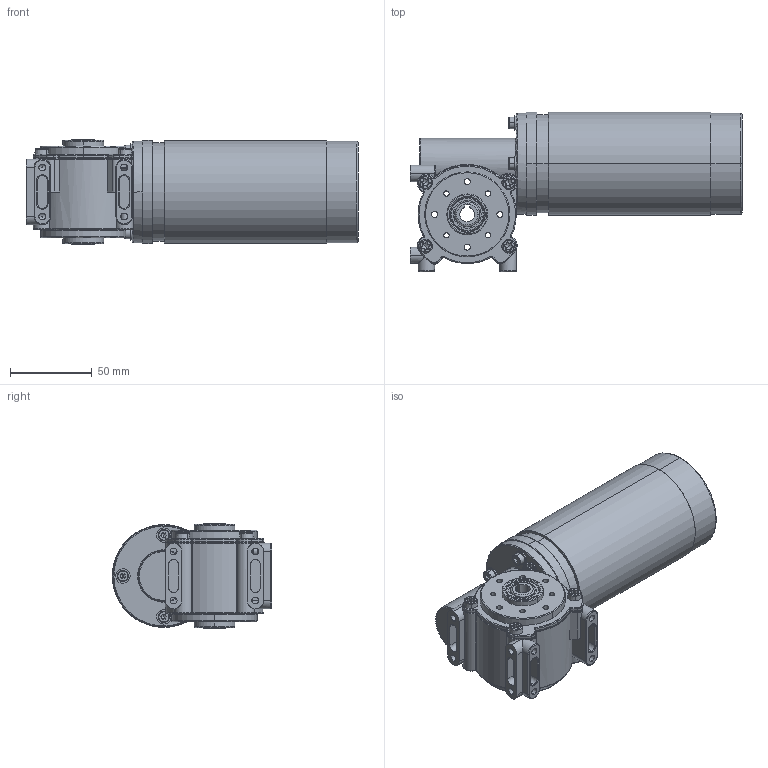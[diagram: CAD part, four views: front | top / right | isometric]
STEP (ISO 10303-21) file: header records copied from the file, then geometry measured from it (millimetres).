
FILE_DESCRIPTION (( 'STEP AP214' ), '1' );
FILE_NAME ('SN18H_93W_3300Upm.STEP', '2021-03-17T08:41:05', ( '' ), ( '' ), 'SwSTEP 2.0', 'SolidWorks 2019', '' );
FILE_SCHEMA (( 'AUTOMOTIVE_DESIGN' ));
Length unit declared in the file: millimetre
Products named in the file (1): SN18H_93W_3300Upm
Bounding box: 203 x 97.5 x 64 mm (x, y, z)
Surface area: 66440.2 mm2 (no closed solid volume)
Topology: 0 solids, 19 shells, 539 faces, 1478 edges, 955 vertices
Faces by surface type: cylinder 278, torus 127, plane 84, cone 40, sphere 6, bspline 4
Entity records: 25568 total; most frequent: CARTESIAN_POINT 5786, DIRECTION 3151, ORIENTED_EDGE 2688, EDGE_CURVE 1458, AXIS2_PLACEMENT_3D 1345, VERTEX_POINT 952, CIRCLE 809, EDGE_LOOP 619
